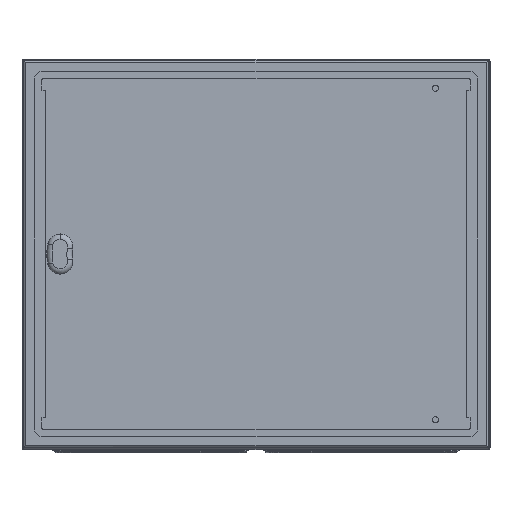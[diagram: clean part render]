
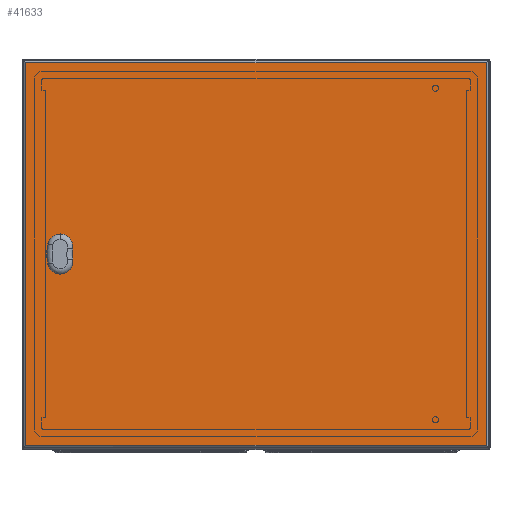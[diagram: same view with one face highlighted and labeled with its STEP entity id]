
A CAD part, top view. The second image highlights one B-rep face of the part: STEP entity #41633.
In plain terms, the highlighted planar face has unit normal (0, 0, 1) as drawn and (0, 0, -1) by its records, which use the part's own axes.
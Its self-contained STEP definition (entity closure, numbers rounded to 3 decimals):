
#176 = CARTESIAN_POINT ( 'NONE',  ( 297.5, 245., 0. ) ) ;
#581 = ORIENTED_EDGE ( 'NONE', *, *, #44604, .F. ) ;
#704 = AXIS2_PLACEMENT_3D ( 'NONE', #24427, #40593, #36901 ) ;
#1173 = DIRECTION ( 'NONE',  ( 1., 0., 0. ) ) ;
#1385 = EDGE_CURVE ( 'NONE', #9144, #52474, #31882, .T. ) ;
#2227 = VERTEX_POINT ( 'NONE', #46336 ) ;
#2876 = LINE ( 'NONE', #46905, #10977 ) ;
#3484 = DIRECTION ( 'NONE',  ( 0., 1., 0. ) ) ;
#3621 = LINE ( 'NONE', #176, #13295 ) ;
#4616 = CARTESIAN_POINT ( 'NONE',  ( 256.056, 10.05, 0. ) ) ;
#4754 = ORIENTED_EDGE ( 'NONE', *, *, #34493, .F. ) ;
#6289 = CARTESIAN_POINT ( 'NONE',  ( 261.05, -5.056, 0. ) ) ;
#7304 = CARTESIAN_POINT ( 'NONE',  ( 251., 0., 0. ) ) ;
#7352 = VECTOR ( 'NONE', #40196, 1000. ) ;
#7477 = EDGE_CURVE ( 'NONE', #28971, #9144, #46728, .T. ) ;
#7873 = DIRECTION ( 'NONE',  ( 1., 0., 0. ) ) ;
#8257 = DIRECTION ( 'NONE',  ( 0., 0., -1. ) ) ;
#8273 = ORIENTED_EDGE ( 'NONE', *, *, #26895, .T. ) ;
#9063 = ORIENTED_EDGE ( 'NONE', *, *, #37746, .T. ) ;
#9094 = DIRECTION ( 'NONE',  ( 0., 1., 0. ) ) ;
#9144 = VERTEX_POINT ( 'NONE', #4616 ) ;
#9901 = DIRECTION ( 'NONE',  ( 1., 0., 0. ) ) ;
#10243 = CARTESIAN_POINT ( 'NONE',  ( 261.05, 5.056, 0. ) ) ;
#10409 = CARTESIAN_POINT ( 'NONE',  ( 256.056, 10.05, 0. ) ) ;
#10977 = VECTOR ( 'NONE', #14841, 1000. ) ;
#11550 = AXIS2_PLACEMENT_3D ( 'NONE', #7304, #23491, #39670 ) ;
#11634 = FACE_BOUND ( 'NONE', #47121, .T. ) ;
#11894 = PLANE ( 'NONE',  #15268 ) ;
#12353 = LINE ( 'NONE', #15811, #7352 ) ;
#12429 = DIRECTION ( 'NONE',  ( 0., 0., -1. ) ) ;
#13007 = CARTESIAN_POINT ( 'NONE',  ( -297.5, -245., 0. ) ) ;
#13108 = VERTEX_POINT ( 'NONE', #6289 ) ;
#13295 = VECTOR ( 'NONE', #7873, 1000. ) ;
#13680 = EDGE_CURVE ( 'NONE', #13108, #39163, #48195, .T. ) ;
#14471 = CARTESIAN_POINT ( 'NONE',  ( -295., 247.5, 0. ) ) ;
#14841 = DIRECTION ( 'NONE',  ( 0., -1., 0. ) ) ;
#15210 = ORIENTED_EDGE ( 'NONE', *, *, #17286, .T. ) ;
#15268 = AXIS2_PLACEMENT_3D ( 'NONE', #24360, #12429, #24093 ) ;
#15802 = LINE ( 'NONE', #22962, #26487 ) ;
#15811 = CARTESIAN_POINT ( 'NONE',  ( 261.05, -5.056, 0. ) ) ;
#15949 = DIRECTION ( 'NONE',  ( -1., 0., 0. ) ) ;
#16124 = CARTESIAN_POINT ( 'NONE',  ( 240.95, 5.056, 0. ) ) ;
#16251 = CARTESIAN_POINT ( 'NONE',  ( 256.056, -10.05, 0. ) ) ;
#17054 = VECTOR ( 'NONE', #9094, 1000. ) ;
#17286 = EDGE_CURVE ( 'NONE', #38252, #35429, #43075, .T. ) ;
#18178 = CIRCLE ( 'NONE', #22402, 11.25 ) ;
#19624 = VERTEX_POINT ( 'NONE', #48227 ) ;
#20897 = ORIENTED_EDGE ( 'NONE', *, *, #7477, .F. ) ;
#21331 = VECTOR ( 'NONE', #9901, 1000. ) ;
#22369 = ORIENTED_EDGE ( 'NONE', *, *, #28503, .F. ) ;
#22402 = AXIS2_PLACEMENT_3D ( 'NONE', #24540, #41744, #1173 ) ;
#22962 = CARTESIAN_POINT ( 'NONE',  ( 256.056, -10.05, 0. ) ) ;
#23491 = DIRECTION ( 'NONE',  ( 0., 0., -1. ) ) ;
#23749 = ORIENTED_EDGE ( 'NONE', *, *, #45770, .F. ) ;
#24093 = DIRECTION ( 'NONE',  ( -1., 0., 0. ) ) ;
#24126 = ORIENTED_EDGE ( 'NONE', *, *, #51066, .F. ) ;
#24360 = CARTESIAN_POINT ( 'NONE',  ( 297.5, 247.5, 0. ) ) ;
#24427 = CARTESIAN_POINT ( 'NONE',  ( 251., 0., 0. ) ) ;
#24540 = CARTESIAN_POINT ( 'NONE',  ( 251., 0., 0. ) ) ;
#24618 = CARTESIAN_POINT ( 'NONE',  ( 240.95, -5.056, 0. ) ) ;
#24890 = FACE_OUTER_BOUND ( 'NONE', #38374, .T. ) ;
#26487 = VECTOR ( 'NONE', #31973, 1000. ) ;
#26895 = EDGE_CURVE ( 'NONE', #35429, #28893, #3621, .T. ) ;
#27737 = CARTESIAN_POINT ( 'NONE',  ( 245.944, 10.05, 0. ) ) ;
#28503 = EDGE_CURVE ( 'NONE', #2227, #46599, #41363, .T. ) ;
#28893 = VERTEX_POINT ( 'NONE', #31997 ) ;
#28971 = VERTEX_POINT ( 'NONE', #27737 ) ;
#29166 = DIRECTION ( 'NONE',  ( -1., 0., 0. ) ) ;
#31882 = CIRCLE ( 'NONE', #11550, 11.25 ) ;
#31973 = DIRECTION ( 'NONE',  ( -1., 0., 0. ) ) ;
#31997 = CARTESIAN_POINT ( 'NONE',  ( 295., 245., 0. ) ) ;
#33412 = LINE ( 'NONE', #13007, #47565 ) ;
#33486 = CARTESIAN_POINT ( 'NONE',  ( 240.95, -5.056, 0. ) ) ;
#34493 = EDGE_CURVE ( 'NONE', #52474, #13108, #12353, .T. ) ;
#35429 = VERTEX_POINT ( 'NONE', #39360 ) ;
#36569 = ORIENTED_EDGE ( 'NONE', *, *, #1385, .F. ) ;
#36901 = DIRECTION ( 'NONE',  ( -1., 0., 0. ) ) ;
#37746 = EDGE_CURVE ( 'NONE', #19624, #38252, #33412, .T. ) ;
#38252 = VERTEX_POINT ( 'NONE', #46031 ) ;
#38374 = EDGE_LOOP ( 'NONE', ( #15210, #8273, #50081, #9063 ) ) ;
#38474 = ORIENTED_EDGE ( 'NONE', *, *, #13680, .F. ) ;
#39163 = VERTEX_POINT ( 'NONE', #16251 ) ;
#39360 = CARTESIAN_POINT ( 'NONE',  ( -295., 245., 0. ) ) ;
#39670 = DIRECTION ( 'NONE',  ( 1., 0., 0. ) ) ;
#40196 = DIRECTION ( 'NONE',  ( 0., -1., 0. ) ) ;
#40593 = DIRECTION ( 'NONE',  ( 0., 0., -1. ) ) ;
#41363 = CIRCLE ( 'NONE', #704, 11.25 ) ;
#41531 = EDGE_CURVE ( 'NONE', #28893, #19624, #2876, .T. ) ;
#41633 = ADVANCED_FACE ( 'NONE', ( #11634, #24890 ), #11894, .T. ) ;
#41744 = DIRECTION ( 'NONE',  ( 0., 0., -1. ) ) ;
#43075 = LINE ( 'NONE', #14471, #43306 ) ;
#43306 = VECTOR ( 'NONE', #3484, 1000. ) ;
#43949 = AXIS2_PLACEMENT_3D ( 'NONE', #44036, #8257, #15949 ) ;
#44036 = CARTESIAN_POINT ( 'NONE',  ( 251., 0., 0. ) ) ;
#44604 = EDGE_CURVE ( 'NONE', #46599, #52382, #46174, .T. ) ;
#45770 = EDGE_CURVE ( 'NONE', #39163, #2227, #15802, .T. ) ;
#46031 = CARTESIAN_POINT ( 'NONE',  ( -295., -245., 0. ) ) ;
#46174 = LINE ( 'NONE', #33486, #17054 ) ;
#46336 = CARTESIAN_POINT ( 'NONE',  ( 245.944, -10.05, 0. ) ) ;
#46599 = VERTEX_POINT ( 'NONE', #24618 ) ;
#46728 = LINE ( 'NONE', #10409, #21331 ) ;
#46905 = CARTESIAN_POINT ( 'NONE',  ( 295., -247.5, 0. ) ) ;
#47121 = EDGE_LOOP ( 'NONE', ( #22369, #23749, #38474, #4754, #36569, #20897, #24126, #581 ) ) ;
#47565 = VECTOR ( 'NONE', #29166, 1000. ) ;
#48195 = CIRCLE ( 'NONE', #43949, 11.25 ) ;
#48227 = CARTESIAN_POINT ( 'NONE',  ( 295., -245., 0. ) ) ;
#50081 = ORIENTED_EDGE ( 'NONE', *, *, #41531, .T. ) ;
#51066 = EDGE_CURVE ( 'NONE', #52382, #28971, #18178, .T. ) ;
#52382 = VERTEX_POINT ( 'NONE', #16124 ) ;
#52474 = VERTEX_POINT ( 'NONE', #10243 ) ;
